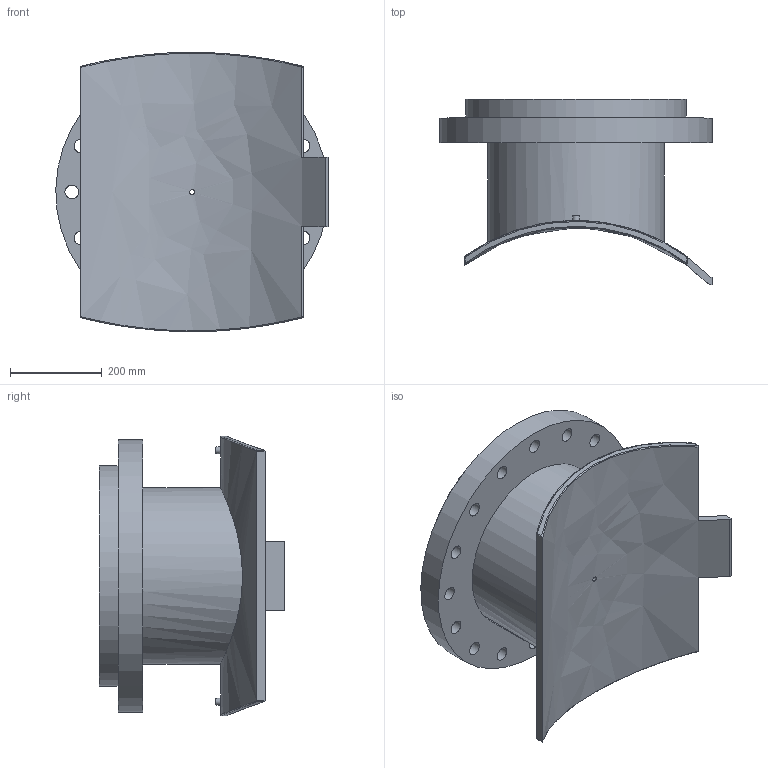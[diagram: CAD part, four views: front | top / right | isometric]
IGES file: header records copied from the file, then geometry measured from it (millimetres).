
Global section: file name: 495903800400T; native system: Autodesk Inventor 2019; preprocessor: unknown; author: KIM; date: 20240403.210628; units: millimetre
Bounding box: 594.88 x 405.14 x 609.99 mm (x, y, z)
Volume: 24922616.3 mm3; surface area: 1754446.6 mm2
Topology: 1 solids, 1 shells, 66 faces, 175 edges, 134 vertices
Faces by surface type: bspline 66
